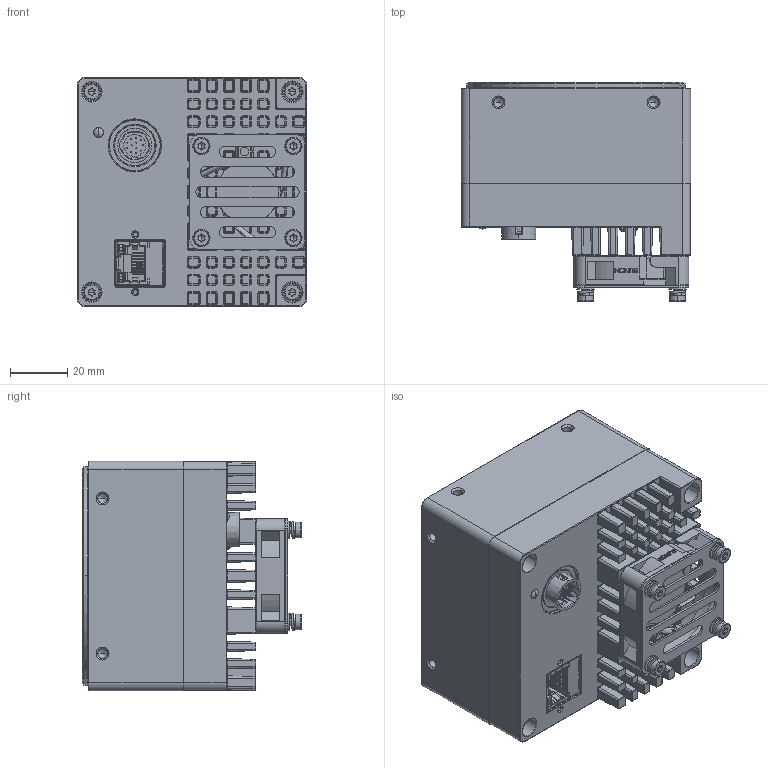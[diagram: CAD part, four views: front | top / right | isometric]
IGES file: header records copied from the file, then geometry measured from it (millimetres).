
Start section:  PTC IGES file: 8k-____sw0001-1.igs
Global section: file name: 8k-____sw0001-1.igs; native system: Creo Parametric by PTC Inc.; preprocessor: 2020184; author: 303992; organization: Unknown; date: 20240322.145445; units: millimetre
Bounding box: 80 x 76.25 x 80 mm (x, y, z)
Surface area: 61247.8 mm2 (no closed solid volume)
Topology: 0 solids, 0 shells, 4106 faces, 20242 edges, 20194 vertices
Faces by surface type: revolution 2460, bspline 1646
